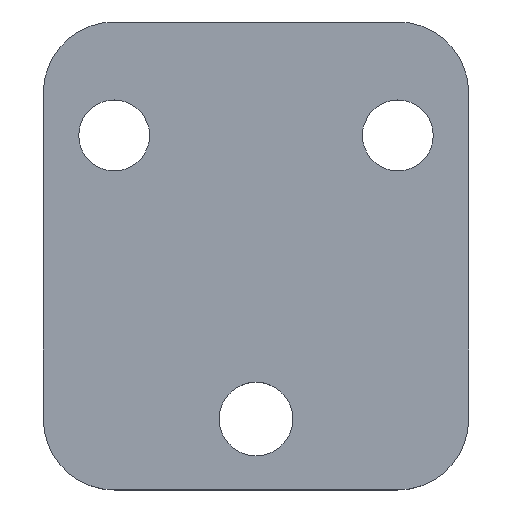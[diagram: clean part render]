
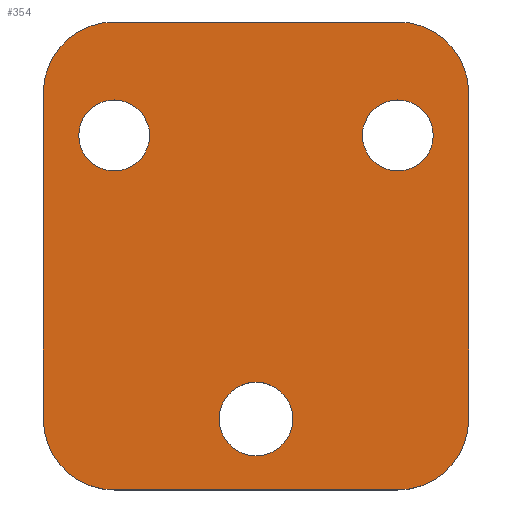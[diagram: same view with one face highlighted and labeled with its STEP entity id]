
A CAD part, top view. The second image highlights one B-rep face of the part: STEP entity #354.
In plain terms, the highlighted planar face has unit normal (0, 0, 1).
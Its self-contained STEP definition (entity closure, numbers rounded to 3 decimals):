
#75=CARTESIAN_POINT('',(0.,0.,3.));
#76=DIRECTION('',(0.,0.,-1.));
#77=DIRECTION('',(1.,0.,0.));
#78=AXIS2_PLACEMENT_3D('',#75,#76,#77);
#80=CARTESIAN_POINT('',(0.,0.,3.));
#81=DIRECTION('',(0.,0.,-1.));
#82=DIRECTION('',(-1.,0.,0.));
#83=AXIS2_PLACEMENT_3D('',#80,#81,#82);
#85=CARTESIAN_POINT('',(-10.,20.,3.));
#86=DIRECTION('',(0.,0.,-1.));
#87=DIRECTION('',(1.,0.,0.));
#88=AXIS2_PLACEMENT_3D('',#85,#86,#87);
#90=CARTESIAN_POINT('',(-10.,20.,3.));
#91=DIRECTION('',(0.,0.,-1.));
#92=DIRECTION('',(-1.,0.,0.));
#93=AXIS2_PLACEMENT_3D('',#90,#91,#92);
#95=CARTESIAN_POINT('',(10.,20.,3.));
#96=DIRECTION('',(0.,0.,-1.));
#97=DIRECTION('',(1.,0.,0.));
#98=AXIS2_PLACEMENT_3D('',#95,#96,#97);
#100=CARTESIAN_POINT('',(10.,20.,3.));
#101=DIRECTION('',(0.,0.,-1.));
#102=DIRECTION('',(-1.,0.,0.));
#103=AXIS2_PLACEMENT_3D('',#100,#101,#102);
#105=CARTESIAN_POINT('',(10.,23.,3.));
#106=DIRECTION('',(0.,0.,1.));
#107=DIRECTION('',(1.,0.,0.));
#108=AXIS2_PLACEMENT_3D('',#105,#106,#107);
#110=DIRECTION('',(0.,1.,0.));
#111=VECTOR('',#110,23.);
#112=CARTESIAN_POINT('',(15.,0.,3.));
#113=LINE('',#112,#111);
#114=CARTESIAN_POINT('',(10.,0.,3.));
#115=DIRECTION('',(0.,0.,1.));
#116=DIRECTION('',(0.,-1.,0.));
#117=AXIS2_PLACEMENT_3D('',#114,#115,#116);
#119=DIRECTION('',(1.,0.,0.));
#120=VECTOR('',#119,20.);
#121=CARTESIAN_POINT('',(-10.,-5.,3.));
#122=LINE('',#121,#120);
#123=CARTESIAN_POINT('',(-10.,0.,3.));
#124=DIRECTION('',(0.,0.,1.));
#125=DIRECTION('',(-1.,0.,0.));
#126=AXIS2_PLACEMENT_3D('',#123,#124,#125);
#128=DIRECTION('',(0.,-1.,0.));
#129=VECTOR('',#128,23.);
#130=CARTESIAN_POINT('',(-15.,23.,3.));
#131=LINE('',#130,#129);
#132=CARTESIAN_POINT('',(-10.,23.,3.));
#133=DIRECTION('',(0.,0.,1.));
#134=DIRECTION('',(0.,1.,0.));
#135=AXIS2_PLACEMENT_3D('',#132,#133,#134);
#137=DIRECTION('',(-1.,0.,0.));
#138=VECTOR('',#137,20.);
#139=CARTESIAN_POINT('',(10.,28.,3.));
#140=LINE('',#139,#138);
#201=CARTESIAN_POINT('',(2.6,0.,3.));
#202=CARTESIAN_POINT('',(-2.6,0.,3.));
#203=VERTEX_POINT('',#201);
#204=VERTEX_POINT('',#202);
#205=CARTESIAN_POINT('',(-7.5,20.,3.));
#206=CARTESIAN_POINT('',(-12.5,20.,3.));
#207=VERTEX_POINT('',#205);
#208=VERTEX_POINT('',#206);
#209=CARTESIAN_POINT('',(12.5,20.,3.));
#210=CARTESIAN_POINT('',(7.5,20.,3.));
#211=VERTEX_POINT('',#209);
#212=VERTEX_POINT('',#210);
#217=CARTESIAN_POINT('',(15.,23.,3.));
#218=VERTEX_POINT('',#217);
#219=CARTESIAN_POINT('',(10.,28.,3.));
#220=VERTEX_POINT('',#219);
#225=CARTESIAN_POINT('',(10.,-5.,3.));
#226=VERTEX_POINT('',#225);
#227=CARTESIAN_POINT('',(15.,0.,3.));
#228=VERTEX_POINT('',#227);
#233=CARTESIAN_POINT('',(-15.,0.,3.));
#234=VERTEX_POINT('',#233);
#235=CARTESIAN_POINT('',(-10.,-5.,3.));
#236=VERTEX_POINT('',#235);
#241=CARTESIAN_POINT('',(-10.,28.,3.));
#242=VERTEX_POINT('',#241);
#243=CARTESIAN_POINT('',(-15.,23.,3.));
#244=VERTEX_POINT('',#243);
#315=CARTESIAN_POINT('',(0.,0.,3.));
#316=DIRECTION('',(0.,0.,1.));
#317=DIRECTION('',(1.,0.,0.));
#318=AXIS2_PLACEMENT_3D('',#315,#316,#317);
#319=PLANE('',#318);
#321=ORIENTED_EDGE('',*,*,#320,.F.);
#323=ORIENTED_EDGE('',*,*,#322,.F.);
#325=ORIENTED_EDGE('',*,*,#324,.F.);
#327=ORIENTED_EDGE('',*,*,#326,.F.);
#329=ORIENTED_EDGE('',*,*,#328,.F.);
#331=ORIENTED_EDGE('',*,*,#330,.F.);
#333=ORIENTED_EDGE('',*,*,#332,.F.);
#335=ORIENTED_EDGE('',*,*,#334,.F.);
#336=EDGE_LOOP('',(#321,#323,#325,#327,#329,#331,#333,#335));
#337=FACE_OUTER_BOUND('',#336,.F.);
#339=ORIENTED_EDGE('',*,*,#338,.F.);
#341=ORIENTED_EDGE('',*,*,#340,.F.);
#342=EDGE_LOOP('',(#339,#341));
#343=FACE_BOUND('',#342,.F.);
#345=ORIENTED_EDGE('',*,*,#344,.F.);
#347=ORIENTED_EDGE('',*,*,#346,.F.);
#348=EDGE_LOOP('',(#345,#347));
#349=FACE_BOUND('',#348,.F.);
#350=ORIENTED_EDGE('',*,*,#295,.F.);
#351=ORIENTED_EDGE('',*,*,#309,.F.);
#352=EDGE_LOOP('',(#350,#351));
#353=FACE_BOUND('',#352,.F.);
#354=ADVANCED_FACE('',(#337,#343,#349,#353),#319,.T.);
#79=CIRCLE('',#78,2.6);
#84=CIRCLE('',#83,2.6);
#89=CIRCLE('',#88,2.5);
#94=CIRCLE('',#93,2.5);
#99=CIRCLE('',#98,2.5);
#104=CIRCLE('',#103,2.5);
#109=CIRCLE('',#108,5.);
#118=CIRCLE('',#117,5.);
#127=CIRCLE('',#126,5.);
#136=CIRCLE('',#135,5.);
#295=EDGE_CURVE('',#203,#204,#79,.T.);
#309=EDGE_CURVE('',#204,#203,#84,.T.);
#320=EDGE_CURVE('',#218,#220,#109,.T.);
#322=EDGE_CURVE('',#228,#218,#113,.T.);
#324=EDGE_CURVE('',#226,#228,#118,.T.);
#326=EDGE_CURVE('',#236,#226,#122,.T.);
#328=EDGE_CURVE('',#234,#236,#127,.T.);
#330=EDGE_CURVE('',#244,#234,#131,.T.);
#332=EDGE_CURVE('',#242,#244,#136,.T.);
#334=EDGE_CURVE('',#220,#242,#140,.T.);
#338=EDGE_CURVE('',#207,#208,#89,.T.);
#340=EDGE_CURVE('',#208,#207,#94,.T.);
#344=EDGE_CURVE('',#211,#212,#99,.T.);
#346=EDGE_CURVE('',#212,#211,#104,.T.);
